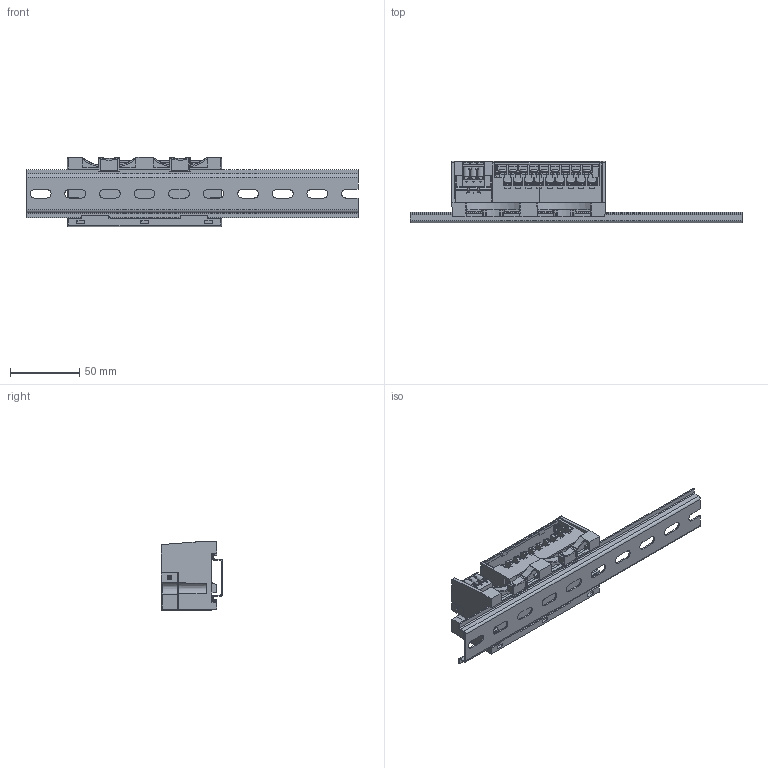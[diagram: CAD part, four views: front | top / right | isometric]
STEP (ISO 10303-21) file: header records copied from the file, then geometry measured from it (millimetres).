
FILE_DESCRIPTION((''),'2;1');
FILE_NAME('00_LINEAR_STANDARD_ASM_24_ASM_1_ASM','2023-08-04T11:55:57',('Administrator'),('yulong DESIGN'),'CREO PARAMETRIC BY PTC INC, 2021023','CREO PARAMETRIC BY PTC INC, 2021023','');
FILE_SCHEMA(('AUTOMOTIVE_DESIGN { 1 0 10303 214 1 1 1 1 }'));
Products named in the file (38): MAIN_BKT_45_1; BRACKET_SHEETMETAL_2_1; TOP_COVER_63_1; MSBR-1_2_1; MJ5688-BX11-GRLX_ASM_2_ASM_1_ASM; 2EHDVM-03P_4_1; 2EHDVM-03P_ASM_2_ASM_1_ASM; DINKLE_2ESDSRM-XXP_1_2_1; 2ESDSRM-03P_ASM_2_ASM_1_ASM; PRT0004_1_1_1_1; PRT0004_1_2_1_1; PRT0004_1_3_1_1; PRT0004_1_ASM_1_ASM_1_ASM; DG24B-2-18P-13-00AH_ASM_1_ASM_1_ASM; INDICATOR_PCBA_28_1; INDICATOR_16PIN_22_1; INDICATOR_ASM_5_ASM_1_ASM; LEDS_10_1_1; LEDS_10_2_1; LEDS_10_3_1; LEDS_10_4_1; LEDS_10_5_1; LEDS_10_6_1; LEDS_10_7_1; LEDS_10_8_1; LEDS_10_9_1; LEDS_10_10_1; LEDS_10_11_1; LEDS_10_12_1; LEDS_10_13_1; LEDS_10_14_1; LEDS_10_15_1; LEDS_10_16_1; LEDS_10_17_1; LEDS_10_18_1; LEDS_10_19_1; LEDS_10_ASM_1_ASM; 00_LINEAR_STANDARD_ASM_24_ASM_1_ASM
Assembly tree (38 placements, depth 4):
  00_LINEAR_STANDARD_ASM_24_ASM_1_ASM
    MAIN_BKT_45_1
    BRACKET_SHEETMETAL_2_1
    TOP_COVER_63_1
    MJ5688-BX11-GRLX_ASM_2_ASM_1_ASM  x2
      MSBR-1_2_1
    2EHDVM-03P_ASM_2_ASM_1_ASM
      2EHDVM-03P_4_1
    2ESDSRM-03P_ASM_2_ASM_1_ASM
      DINKLE_2ESDSRM-XXP_1_2_1
    DG24B-2-18P-13-00AH_ASM_1_ASM_1_ASM
      PRT0004_1_ASM_1_ASM_1_ASM
        PRT0004_1_1_1_1
        PRT0004_1_2_1_1
        PRT0004_1_3_1_1
    INDICATOR_PCBA_28_1
    INDICATOR_ASM_5_ASM_1_ASM
      INDICATOR_16PIN_22_1
    LEDS_10_ASM_1_ASM
      LEDS_10_1_1
      LEDS_10_2_1
      LEDS_10_3_1
      LEDS_10_4_1
      LEDS_10_5_1
      LEDS_10_6_1
      LEDS_10_7_1
      LEDS_10_8_1
      LEDS_10_9_1
      LEDS_10_10_1
      LEDS_10_11_1
      LEDS_10_12_1
      LEDS_10_13_1
      LEDS_10_14_1
      LEDS_10_15_1
      LEDS_10_16_1
      LEDS_10_17_1
      LEDS_10_18_1
      LEDS_10_19_1
Bounding box: 240 x 44.3 x 50.02 mm (x, y, z)
Volume: 125035.3 mm3; surface area: 106211.9 mm2
Topology: 31 solids, 55 shells, 8129 faces, 21827 edges, 13708 vertices
Faces by surface type: plane 5779, cylinder 1449, bspline 523, torus 230, cone 123, sphere 25
Entity records: 330851 total; most frequent: CARTESIAN_POINT 66704, ORIENTED_EDGE 38000, DIRECTION 33594, PRESENTATION_STYLE_ASSIGNMENT 21347, STYLED_ITEM 21328, EDGE_CURVE 19000, CURVE_STYLE 15594, VECTOR 14540
